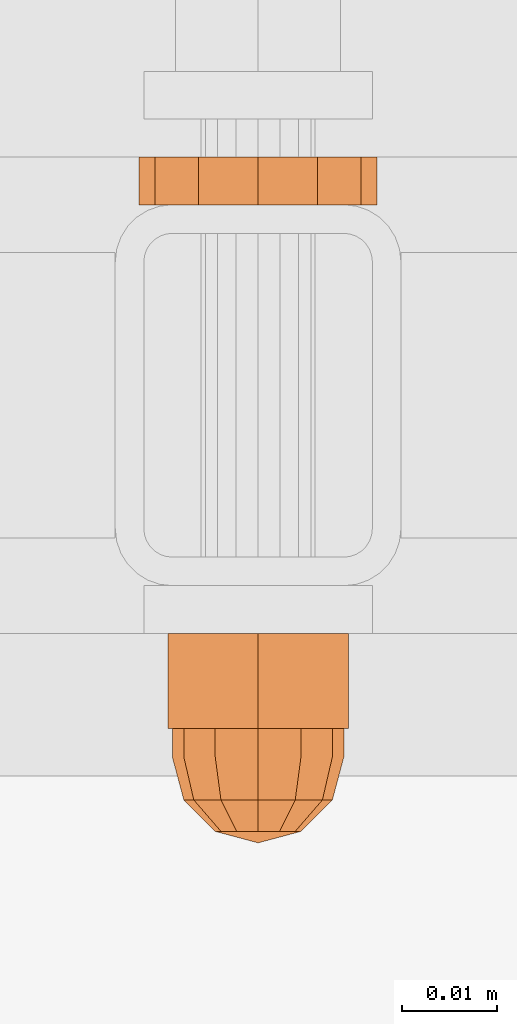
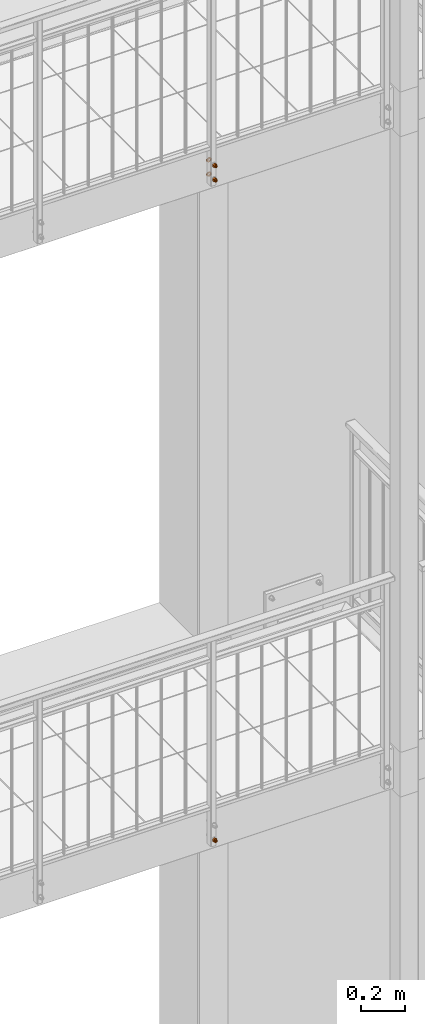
# One storey, part 121 of 162: 5 proxies.
"""IFC2X3 building model written with IfcOpenShell, lengths in millimetres."""

from ifc_helpers import new_model, entity, si_unit, converted_unit, origin_with_axes, place, context, project, spatial, faceted_brep, material, element, save


model = new_model("IFC2X3")

# Units and contexts
model_context = context("Model", 3, precision=1e-09, world=origin_with_axes())
ifc_project = project(units=[si_unit("LENGTHUNIT", "METRE", prefix="MILLI"), si_unit("AREAUNIT", "SQUARE_METRE"), si_unit("VOLUMEUNIT", "CUBIC_METRE"), converted_unit("PLANEANGLEUNIT", "DEGREE", entity("IfcPlaneAngleMeasure", 0.01745329), si_unit("PLANEANGLEUNIT", "RADIAN"), dimensions=[0, 0, 0, 0, 0, 0, 0])], contexts=[model_context])

# Site, building, storey
site_placement = place(None, origin_with_axes())
site = spatial("IfcSite", under=ifc_project, at=site_placement, Name="Hermannstra?e 1a, 60318 Frankfurt", CompositionType="ELEMENT")
building_placement = place(site_placement, origin_with_axes())
building = spatial("IfcBuilding", under=site, at=building_placement, Name="Struktur 1", CompositionType="ELEMENT")
storey_placement = place(building_placement, origin_with_axes())
storey = spatial("IfcBuildingStorey", under=building, at=storey_placement, Name="Default Storey", CompositionType="ELEMENT", Elevation=0.0)

# Proxies
ifc_material = material(Name="Kein")
proxy_1_placement = place(None, origin_with_axes())
element("IfcBuildingElementProxy", 1, at=proxy_1_placement, inside=storey, material=ifc_material, ObjectType="-", context=model_context, shape_type="Brep", body=[
    faceted_brep([(4437.30936482, 1490.609373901, 7640.0), (4437.30936482, 1480.609373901, 7640.0), (4438.113212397, 1480.609373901, 7637.0), (4438.113212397, 1490.609373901, 7637.0), (4440.30936482, 1480.609373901, 7634.803847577), (4440.30936482, 1490.609373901, 7634.803847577), (4438.113212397, 1490.609373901, 7643.0), (4438.113212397, 1480.609373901, 7643.0), (4433.829495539, 1490.609373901, 7645.473205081), (4443.30936482, 1490.609373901, 7650.946410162), (4452.7892341, 1490.609373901, 7645.473205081), (4452.7892341, 1490.609373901, 7634.526794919), (4443.30936482, 1490.609373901, 7629.053589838), (4433.829495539, 1490.609373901, 7634.526794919), (4440.30936482, 1490.609373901, 7645.196152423), (4443.30936482, 1490.609373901, 7634.0), (4446.30936482, 1490.609373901, 7634.803847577), (4448.505517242, 1490.609373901, 7637.0), (4449.30936482, 1490.609373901, 7640.0), (4448.505517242, 1490.609373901, 7643.0), (4446.30936482, 1490.609373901, 7645.196152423), (4443.30936482, 1490.609373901, 7646.0), (4443.30936482, 1480.609373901, 7650.946410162), (4433.829495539, 1480.609373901, 7645.473205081), (4433.829495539, 1480.609373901, 7634.526794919), (4443.30936482, 1480.609373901, 7629.053589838), (4452.7892341, 1480.609373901, 7634.526794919), (4452.7892341, 1480.609373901, 7645.473205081), (4440.30936482, 1480.609373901, 7645.196152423), (4443.30936482, 1480.609373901, 7646.0), (4446.30936482, 1480.609373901, 7645.196152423), (4448.505517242, 1480.609373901, 7643.0), (4449.30936482, 1480.609373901, 7640.0), (4448.505517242, 1480.609373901, 7637.0), (4446.30936482, 1480.609373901, 7634.803847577), (4443.30936482, 1480.609373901, 7634.0)], [[[0, 1, 2, 3]], [[3, 2, 4, 5]], [[1, 0, 6, 7]], [[8, 9, 10, 11, 12, 13], [14, 6, 0, 3, 5, 15, 16, 17, 18, 19, 20, 21]], [[22, 23, 24, 25, 26, 27], [1, 7, 28, 29, 30, 31, 32, 33, 34, 35, 4, 2]], [[7, 6, 14, 28]], [[24, 23, 8, 13]], [[5, 4, 35, 15]], [[13, 12, 25, 24]], [[28, 14, 21, 29]], [[23, 22, 9, 8]], [[15, 35, 34, 16]], [[12, 11, 26, 25]], [[29, 21, 20, 30]], [[22, 27, 10, 9]], [[16, 34, 33, 17]], [[27, 26, 11, 10]], [[30, 20, 19, 31]], [[17, 33, 32, 18]], [[31, 19, 18, 32]]]),
    faceted_brep([(4443.30936482, 1480.609373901, 7649.0), (4443.30936482, 1477.609373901, 7649.0), (4447.80936482, 1477.609373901, 7647.794228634), (4447.80936482, 1480.609373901, 7647.794228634), (4438.80936482, 1480.609373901, 7647.794228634), (4438.80936482, 1477.609373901, 7647.794228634), (4435.515136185, 1477.609373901, 7635.5), (4438.80936482, 1477.609373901, 7632.205771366), (4443.30936482, 1477.609373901, 7631.0), (4447.80936482, 1477.609373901, 7632.205771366), (4451.103593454, 1477.609373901, 7635.5), (4452.30936482, 1477.609373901, 7640.0), (4451.103593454, 1477.609373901, 7644.5), (4435.515136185, 1477.609373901, 7644.5), (4434.30936482, 1477.609373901, 7640.0), (4451.103593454, 1480.609373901, 7635.5), (4447.80936482, 1480.609373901, 7632.205771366), (4443.30936482, 1480.609373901, 7631.0), (4438.80936482, 1480.609373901, 7632.205771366), (4435.515136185, 1480.609373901, 7635.5), (4434.30936482, 1480.609373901, 7640.0), (4435.515136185, 1480.609373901, 7644.5), (4451.103593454, 1480.609373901, 7644.5), (4452.30936482, 1480.609373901, 7640.0)], [[[0, 1, 2, 3]], [[1, 0, 4, 5]], [[6, 7, 8, 9, 10, 11, 12, 2, 1, 5, 13, 14]], [[15, 16, 17, 18, 19, 20, 21, 4, 0, 3, 22, 23]], [[3, 2, 12, 22]], [[5, 4, 21, 13]], [[22, 12, 11, 23]], [[13, 21, 20, 14]], [[7, 18, 17, 8]], [[19, 6, 14, 20]], [[18, 7, 6, 19]], [[23, 11, 10, 15]], [[8, 17, 16, 9]], [[15, 10, 9, 16]]]),
    faceted_brep([(4435.515136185, 1477.609373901, 7644.5), (4436.55936482, 1473.109373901, 7643.897114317), (4439.412250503, 1473.109373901, 7646.75), (4438.80936482, 1477.609373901, 7647.794228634), (4451.103593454, 1477.609373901, 7635.5), (4447.80936482, 1477.609373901, 7632.205771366), (4443.30936482, 1477.609373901, 7631.0), (4438.80936482, 1477.609373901, 7632.205771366), (4435.515136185, 1477.609373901, 7635.5), (4434.30936482, 1477.609373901, 7640.0), (4443.30936482, 1477.609373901, 7649.0), (4447.80936482, 1477.609373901, 7647.794228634), (4451.103593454, 1477.609373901, 7644.5), (4452.30936482, 1477.609373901, 7640.0), (4443.30936482, 1473.109373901, 7647.794228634), (4435.515136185, 1473.109373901, 7640.0), (4438.80936482, 1469.815145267, 7640.0), (4439.412250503, 1469.815145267, 7642.25), (4447.206479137, 1473.109373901, 7646.75), (4441.05936482, 1469.815145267, 7643.897114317), (4436.55936482, 1473.109373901, 7636.102885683), (4439.412250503, 1469.815145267, 7637.75), (4443.30936482, 1469.815145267, 7644.5), (4443.30936482, 1468.609373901, 7640.0), (4439.412250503, 1473.109373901, 7633.25), (4441.05936482, 1469.815145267, 7636.102885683), (4443.30936482, 1473.109373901, 7632.205771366), (4450.05936482, 1473.109373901, 7643.897114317), (4445.55936482, 1469.815145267, 7643.897114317), (4443.30936482, 1469.815145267, 7635.5), (4447.206479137, 1473.109373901, 7633.25), (4445.55936482, 1469.815145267, 7636.102885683), (4451.103593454, 1473.109373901, 7640.0), (4447.206479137, 1469.815145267, 7642.25), (4450.05936482, 1473.109373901, 7636.102885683), (4447.206479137, 1469.815145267, 7637.75), (4447.80936482, 1469.815145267, 7640.0)], [[[0, 1, 2, 3]], [[4, 5, 6, 7, 8, 9, 0, 3, 10, 11, 12, 13]], [[3, 2, 14, 10]], [[15, 16, 17, 1]], [[1, 0, 9, 15]], [[10, 14, 18, 11]], [[1, 17, 19, 2]], [[16, 15, 20, 21]], [[2, 19, 22, 14]], [[23, 17, 16]], [[24, 25, 21, 20]], [[23, 16, 21]], [[24, 7, 6, 26]], [[20, 8, 7, 24]], [[15, 9, 8, 20]], [[11, 18, 27, 12]], [[14, 22, 28, 18]], [[23, 19, 17]], [[26, 29, 25, 24]], [[23, 21, 25]], [[23, 22, 19]], [[26, 6, 5, 30]], [[29, 26, 30, 31]], [[23, 25, 29]], [[12, 27, 32, 13]], [[18, 28, 33, 27]], [[23, 28, 22]], [[23, 29, 31]], [[23, 33, 28]], [[30, 5, 4, 34]], [[31, 30, 34, 35]], [[23, 31, 35]], [[13, 32, 34, 4]], [[27, 33, 36, 32]], [[23, 36, 33]], [[23, 35, 36]], [[35, 34, 32, 36]]]),
])
proxy_2_placement = place(None, origin_with_axes())
element("IfcBuildingElementProxy", 2, at=proxy_2_placement, inside=storey, material=ifc_material, ObjectType="-", context=model_context, shape_type="Brep", body=[
    faceted_brep([(4432.484047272, 1535.609373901, 11333.749), (4437.05936482, 1535.609373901, 11329.173682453), (4443.30936482, 1535.609373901, 11327.499), (4449.55936482, 1535.609373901, 11329.173682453), (4454.134682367, 1535.609373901, 11333.749), (4455.80936482, 1535.609373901, 11339.999), (4454.134682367, 1535.609373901, 11346.249), (4449.55936482, 1535.609373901, 11350.824317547), (4443.30936482, 1535.609373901, 11352.499), (4437.05936482, 1535.609373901, 11350.824317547), (4432.484047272, 1535.609373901, 11346.249), (4430.80936482, 1535.609373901, 11339.999), (4443.30936482, 1535.609373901, 11333.999), (4440.30936482, 1535.609373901, 11334.802847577), (4438.113212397, 1535.609373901, 11336.999), (4437.30936482, 1535.609373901, 11339.999), (4438.113212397, 1535.609373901, 11342.999), (4440.30936482, 1535.609373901, 11345.195152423), (4443.30936482, 1535.609373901, 11345.999), (4446.30936482, 1535.609373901, 11345.195152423), (4448.505517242, 1535.609373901, 11342.999), (4449.30936482, 1535.609373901, 11339.999), (4448.505517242, 1535.609373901, 11336.999), (4446.30936482, 1535.609373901, 11334.802847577), (4432.484047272, 1540.609373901, 11333.749), (4437.05936482, 1540.609373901, 11329.173682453), (4430.80936482, 1540.609373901, 11339.999), (4432.484047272, 1540.609373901, 11346.249), (4437.05936482, 1540.609373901, 11350.824317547), (4443.30936482, 1540.609373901, 11352.499), (4449.55936482, 1540.609373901, 11350.824317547), (4454.134682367, 1540.609373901, 11346.249), (4455.80936482, 1540.609373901, 11339.999), (4454.134682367, 1540.609373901, 11333.749), (4449.55936482, 1540.609373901, 11329.173682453), (4443.30936482, 1540.609373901, 11327.499), (4438.113212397, 1540.609373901, 11342.999), (4437.30936482, 1540.609373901, 11339.999), (4438.113212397, 1540.609373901, 11336.999), (4440.30936482, 1540.609373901, 11334.802847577), (4443.30936482, 1540.609373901, 11333.999), (4446.30936482, 1540.609373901, 11334.802847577), (4448.505517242, 1540.609373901, 11336.999), (4449.30936482, 1540.609373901, 11339.999), (4448.505517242, 1540.609373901, 11342.999), (4446.30936482, 1540.609373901, 11345.195152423), (4443.30936482, 1540.609373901, 11345.999), (4440.30936482, 1540.609373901, 11345.195152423)], [[[0, 1, 2, 3, 4, 5, 6, 7, 8, 9, 10, 11], [12, 13, 14, 15, 16, 17, 18, 19, 20, 21, 22, 23]], [[0, 24, 25, 1]], [[24, 26, 27, 28, 29, 30, 31, 32, 33, 34, 35, 25], [36, 37, 38, 39, 40, 41, 42, 43, 44, 45, 46, 47]], [[38, 14, 13, 39]], [[24, 0, 11, 26]], [[14, 38, 37, 15]], [[39, 13, 12, 40]], [[1, 25, 35, 2]], [[26, 11, 10, 27]], [[15, 37, 36, 16]], [[40, 12, 23, 41]], [[2, 35, 34, 3]], [[27, 10, 9, 28]], [[16, 36, 47, 17]], [[22, 42, 41, 23]], [[3, 34, 33, 4]], [[42, 22, 21, 43]], [[28, 9, 8, 29]], [[17, 47, 46, 18]], [[20, 44, 43, 21]], [[4, 33, 32, 5]], [[45, 19, 18, 46]], [[44, 20, 19, 45]], [[29, 8, 7, 30]], [[5, 32, 31, 6]], [[30, 7, 6, 31]]]),
])
proxy_3_placement = place(None, origin_with_axes())
element("IfcBuildingElementProxy", 3, at=proxy_3_placement, inside=storey, material=ifc_material, ObjectType="-", context=model_context, shape_type="Brep", body=[
    faceted_brep([(4432.484047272, 1535.609373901, 11413.749), (4437.05936482, 1535.609373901, 11409.173682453), (4443.30936482, 1535.609373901, 11407.499), (4449.55936482, 1535.609373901, 11409.173682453), (4454.134682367, 1535.609373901, 11413.749), (4455.80936482, 1535.609373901, 11419.999), (4454.134682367, 1535.609373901, 11426.249), (4449.55936482, 1535.609373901, 11430.824317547), (4443.30936482, 1535.609373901, 11432.499), (4437.05936482, 1535.609373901, 11430.824317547), (4432.484047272, 1535.609373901, 11426.249), (4430.80936482, 1535.609373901, 11419.999), (4443.30936482, 1535.609373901, 11413.999), (4440.30936482, 1535.609373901, 11414.802847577), (4438.113212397, 1535.609373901, 11416.999), (4437.30936482, 1535.609373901, 11419.999), (4438.113212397, 1535.609373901, 11422.999), (4440.30936482, 1535.609373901, 11425.195152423), (4443.30936482, 1535.609373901, 11425.999), (4446.30936482, 1535.609373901, 11425.195152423), (4448.505517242, 1535.609373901, 11422.999), (4449.30936482, 1535.609373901, 11419.999), (4448.505517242, 1535.609373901, 11416.999), (4446.30936482, 1535.609373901, 11414.802847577), (4432.484047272, 1540.609373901, 11413.749), (4437.05936482, 1540.609373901, 11409.173682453), (4430.80936482, 1540.609373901, 11419.999), (4432.484047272, 1540.609373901, 11426.249), (4437.05936482, 1540.609373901, 11430.824317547), (4443.30936482, 1540.609373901, 11432.499), (4449.55936482, 1540.609373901, 11430.824317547), (4454.134682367, 1540.609373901, 11426.249), (4455.80936482, 1540.609373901, 11419.999), (4454.134682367, 1540.609373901, 11413.749), (4449.55936482, 1540.609373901, 11409.173682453), (4443.30936482, 1540.609373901, 11407.499), (4438.113212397, 1540.609373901, 11422.999), (4437.30936482, 1540.609373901, 11419.999), (4438.113212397, 1540.609373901, 11416.999), (4440.30936482, 1540.609373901, 11414.802847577), (4443.30936482, 1540.609373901, 11413.999), (4446.30936482, 1540.609373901, 11414.802847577), (4448.505517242, 1540.609373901, 11416.999), (4449.30936482, 1540.609373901, 11419.999), (4448.505517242, 1540.609373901, 11422.999), (4446.30936482, 1540.609373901, 11425.195152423), (4443.30936482, 1540.609373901, 11425.999), (4440.30936482, 1540.609373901, 11425.195152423)], [[[0, 1, 2, 3, 4, 5, 6, 7, 8, 9, 10, 11], [12, 13, 14, 15, 16, 17, 18, 19, 20, 21, 22, 23]], [[0, 24, 25, 1]], [[24, 26, 27, 28, 29, 30, 31, 32, 33, 34, 35, 25], [36, 37, 38, 39, 40, 41, 42, 43, 44, 45, 46, 47]], [[38, 14, 13, 39]], [[24, 0, 11, 26]], [[14, 38, 37, 15]], [[39, 13, 12, 40]], [[1, 25, 35, 2]], [[26, 11, 10, 27]], [[15, 37, 36, 16]], [[40, 12, 23, 41]], [[2, 35, 34, 3]], [[27, 10, 9, 28]], [[16, 36, 47, 17]], [[22, 42, 41, 23]], [[3, 34, 33, 4]], [[42, 22, 21, 43]], [[28, 9, 8, 29]], [[17, 47, 46, 18]], [[20, 44, 43, 21]], [[4, 33, 32, 5]], [[45, 19, 18, 46]], [[44, 20, 19, 45]], [[29, 8, 7, 30]], [[5, 32, 31, 6]], [[30, 7, 6, 31]]]),
])
proxy_4_placement = place(None, origin_with_axes())
element("IfcBuildingElementProxy", 4, at=proxy_4_placement, inside=storey, material=ifc_material, ObjectType="-", context=model_context, shape_type="Brep", body=[
    faceted_brep([(4437.30936482, 1490.609373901, 11419.999), (4437.30936482, 1480.609373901, 11419.999), (4438.113212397, 1480.609373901, 11416.999), (4438.113212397, 1490.609373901, 11416.999), (4440.30936482, 1480.609373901, 11414.802847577), (4440.30936482, 1490.609373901, 11414.802847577), (4438.113212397, 1490.609373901, 11422.999), (4438.113212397, 1480.609373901, 11422.999), (4433.829495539, 1490.609373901, 11425.472205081), (4443.30936482, 1490.609373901, 11430.945410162), (4452.7892341, 1490.609373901, 11425.472205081), (4452.7892341, 1490.609373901, 11414.525794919), (4443.30936482, 1490.609373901, 11409.052589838), (4433.829495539, 1490.609373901, 11414.525794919), (4440.30936482, 1490.609373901, 11425.195152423), (4443.30936482, 1490.609373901, 11413.999), (4446.30936482, 1490.609373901, 11414.802847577), (4448.505517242, 1490.609373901, 11416.999), (4449.30936482, 1490.609373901, 11419.999), (4448.505517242, 1490.609373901, 11422.999), (4446.30936482, 1490.609373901, 11425.195152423), (4443.30936482, 1490.609373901, 11425.999), (4443.30936482, 1480.609373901, 11430.945410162), (4433.829495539, 1480.609373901, 11425.472205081), (4433.829495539, 1480.609373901, 11414.525794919), (4443.30936482, 1480.609373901, 11409.052589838), (4452.7892341, 1480.609373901, 11414.525794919), (4452.7892341, 1480.609373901, 11425.472205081), (4440.30936482, 1480.609373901, 11425.195152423), (4443.30936482, 1480.609373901, 11425.999), (4446.30936482, 1480.609373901, 11425.195152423), (4448.505517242, 1480.609373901, 11422.999), (4449.30936482, 1480.609373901, 11419.999), (4448.505517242, 1480.609373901, 11416.999), (4446.30936482, 1480.609373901, 11414.802847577), (4443.30936482, 1480.609373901, 11413.999)], [[[0, 1, 2, 3]], [[3, 2, 4, 5]], [[1, 0, 6, 7]], [[8, 9, 10, 11, 12, 13], [14, 6, 0, 3, 5, 15, 16, 17, 18, 19, 20, 21]], [[22, 23, 24, 25, 26, 27], [1, 7, 28, 29, 30, 31, 32, 33, 34, 35, 4, 2]], [[7, 6, 14, 28]], [[24, 23, 8, 13]], [[5, 4, 35, 15]], [[13, 12, 25, 24]], [[28, 14, 21, 29]], [[23, 22, 9, 8]], [[15, 35, 34, 16]], [[12, 11, 26, 25]], [[29, 21, 20, 30]], [[22, 27, 10, 9]], [[16, 34, 33, 17]], [[27, 26, 11, 10]], [[30, 20, 19, 31]], [[17, 33, 32, 18]], [[31, 19, 18, 32]]]),
    faceted_brep([(4443.30936482, 1480.609373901, 11428.999), (4443.30936482, 1477.609373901, 11428.999), (4447.80936482, 1477.609373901, 11427.793228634), (4447.80936482, 1480.609373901, 11427.793228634), (4438.80936482, 1480.609373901, 11427.793228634), (4438.80936482, 1477.609373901, 11427.793228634), (4435.515136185, 1477.609373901, 11415.499), (4438.80936482, 1477.609373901, 11412.204771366), (4443.30936482, 1477.609373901, 11410.999), (4447.80936482, 1477.609373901, 11412.204771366), (4451.103593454, 1477.609373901, 11415.499), (4452.30936482, 1477.609373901, 11419.999), (4451.103593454, 1477.609373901, 11424.499), (4435.515136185, 1477.609373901, 11424.499), (4434.30936482, 1477.609373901, 11419.999), (4451.103593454, 1480.609373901, 11415.499), (4447.80936482, 1480.609373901, 11412.204771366), (4443.30936482, 1480.609373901, 11410.999), (4438.80936482, 1480.609373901, 11412.204771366), (4435.515136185, 1480.609373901, 11415.499), (4434.30936482, 1480.609373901, 11419.999), (4435.515136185, 1480.609373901, 11424.499), (4451.103593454, 1480.609373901, 11424.499), (4452.30936482, 1480.609373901, 11419.999)], [[[0, 1, 2, 3]], [[1, 0, 4, 5]], [[6, 7, 8, 9, 10, 11, 12, 2, 1, 5, 13, 14]], [[15, 16, 17, 18, 19, 20, 21, 4, 0, 3, 22, 23]], [[3, 2, 12, 22]], [[5, 4, 21, 13]], [[22, 12, 11, 23]], [[13, 21, 20, 14]], [[7, 18, 17, 8]], [[19, 6, 14, 20]], [[18, 7, 6, 19]], [[23, 11, 10, 15]], [[8, 17, 16, 9]], [[15, 10, 9, 16]]]),
    faceted_brep([(4435.515136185, 1477.609373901, 11424.499), (4436.55936482, 1473.109373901, 11423.896114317), (4439.412250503, 1473.109373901, 11426.749), (4438.80936482, 1477.609373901, 11427.793228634), (4451.103593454, 1477.609373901, 11415.499), (4447.80936482, 1477.609373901, 11412.204771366), (4443.30936482, 1477.609373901, 11410.999), (4438.80936482, 1477.609373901, 11412.204771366), (4435.515136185, 1477.609373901, 11415.499), (4434.30936482, 1477.609373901, 11419.999), (4443.30936482, 1477.609373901, 11428.999), (4447.80936482, 1477.609373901, 11427.793228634), (4451.103593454, 1477.609373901, 11424.499), (4452.30936482, 1477.609373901, 11419.999), (4443.30936482, 1473.109373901, 11427.793228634), (4435.515136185, 1473.109373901, 11419.999), (4438.80936482, 1469.815145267, 11419.999), (4439.412250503, 1469.815145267, 11422.249), (4447.206479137, 1473.109373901, 11426.749), (4441.05936482, 1469.815145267, 11423.896114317), (4436.55936482, 1473.109373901, 11416.101885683), (4439.412250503, 1469.815145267, 11417.749), (4443.30936482, 1469.815145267, 11424.499), (4443.30936482, 1468.609373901, 11419.999), (4439.412250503, 1473.109373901, 11413.249), (4441.05936482, 1469.815145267, 11416.101885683), (4443.30936482, 1473.109373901, 11412.204771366), (4450.05936482, 1473.109373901, 11423.896114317), (4445.55936482, 1469.815145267, 11423.896114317), (4443.30936482, 1469.815145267, 11415.499), (4447.206479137, 1473.109373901, 11413.249), (4445.55936482, 1469.815145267, 11416.101885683), (4451.103593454, 1473.109373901, 11419.999), (4447.206479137, 1469.815145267, 11422.249), (4450.05936482, 1473.109373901, 11416.101885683), (4447.206479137, 1469.815145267, 11417.749), (4447.80936482, 1469.815145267, 11419.999)], [[[0, 1, 2, 3]], [[4, 5, 6, 7, 8, 9, 0, 3, 10, 11, 12, 13]], [[3, 2, 14, 10]], [[15, 16, 17, 1]], [[1, 0, 9, 15]], [[10, 14, 18, 11]], [[1, 17, 19, 2]], [[16, 15, 20, 21]], [[2, 19, 22, 14]], [[23, 17, 16]], [[24, 25, 21, 20]], [[23, 16, 21]], [[24, 7, 6, 26]], [[20, 8, 7, 24]], [[15, 9, 8, 20]], [[11, 18, 27, 12]], [[14, 22, 28, 18]], [[23, 19, 17]], [[26, 29, 25, 24]], [[23, 21, 25]], [[23, 22, 19]], [[26, 6, 5, 30]], [[29, 26, 30, 31]], [[23, 25, 29]], [[12, 27, 32, 13]], [[18, 28, 33, 27]], [[23, 28, 22]], [[23, 29, 31]], [[23, 33, 28]], [[30, 5, 4, 34]], [[31, 30, 34, 35]], [[23, 31, 35]], [[13, 32, 34, 4]], [[27, 33, 36, 32]], [[23, 36, 33]], [[23, 35, 36]], [[35, 34, 32, 36]]]),
])
proxy_5_placement = place(None, origin_with_axes())
element("IfcBuildingElementProxy", 5, at=proxy_5_placement, inside=storey, material=ifc_material, ObjectType="-", context=model_context, shape_type="Brep", body=[
    faceted_brep([(4437.30936482, 1490.609373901, 11339.999), (4437.30936482, 1480.609373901, 11339.999), (4438.113212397, 1480.609373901, 11336.999), (4438.113212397, 1490.609373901, 11336.999), (4440.30936482, 1480.609373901, 11334.802847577), (4440.30936482, 1490.609373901, 11334.802847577), (4438.113212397, 1490.609373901, 11342.999), (4438.113212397, 1480.609373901, 11342.999), (4433.829495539, 1490.609373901, 11345.472205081), (4443.30936482, 1490.609373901, 11350.945410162), (4452.7892341, 1490.609373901, 11345.472205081), (4452.7892341, 1490.609373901, 11334.525794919), (4443.30936482, 1490.609373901, 11329.052589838), (4433.829495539, 1490.609373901, 11334.525794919), (4440.30936482, 1490.609373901, 11345.195152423), (4443.30936482, 1490.609373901, 11333.999), (4446.30936482, 1490.609373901, 11334.802847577), (4448.505517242, 1490.609373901, 11336.999), (4449.30936482, 1490.609373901, 11339.999), (4448.505517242, 1490.609373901, 11342.999), (4446.30936482, 1490.609373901, 11345.195152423), (4443.30936482, 1490.609373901, 11345.999), (4443.30936482, 1480.609373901, 11350.945410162), (4433.829495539, 1480.609373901, 11345.472205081), (4433.829495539, 1480.609373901, 11334.525794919), (4443.30936482, 1480.609373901, 11329.052589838), (4452.7892341, 1480.609373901, 11334.525794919), (4452.7892341, 1480.609373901, 11345.472205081), (4440.30936482, 1480.609373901, 11345.195152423), (4443.30936482, 1480.609373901, 11345.999), (4446.30936482, 1480.609373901, 11345.195152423), (4448.505517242, 1480.609373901, 11342.999), (4449.30936482, 1480.609373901, 11339.999), (4448.505517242, 1480.609373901, 11336.999), (4446.30936482, 1480.609373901, 11334.802847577), (4443.30936482, 1480.609373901, 11333.999)], [[[0, 1, 2, 3]], [[3, 2, 4, 5]], [[1, 0, 6, 7]], [[8, 9, 10, 11, 12, 13], [14, 6, 0, 3, 5, 15, 16, 17, 18, 19, 20, 21]], [[22, 23, 24, 25, 26, 27], [1, 7, 28, 29, 30, 31, 32, 33, 34, 35, 4, 2]], [[7, 6, 14, 28]], [[24, 23, 8, 13]], [[5, 4, 35, 15]], [[13, 12, 25, 24]], [[28, 14, 21, 29]], [[23, 22, 9, 8]], [[15, 35, 34, 16]], [[12, 11, 26, 25]], [[29, 21, 20, 30]], [[22, 27, 10, 9]], [[16, 34, 33, 17]], [[27, 26, 11, 10]], [[30, 20, 19, 31]], [[17, 33, 32, 18]], [[31, 19, 18, 32]]]),
    faceted_brep([(4443.30936482, 1480.609373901, 11348.999), (4443.30936482, 1477.609373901, 11348.999), (4447.80936482, 1477.609373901, 11347.793228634), (4447.80936482, 1480.609373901, 11347.793228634), (4438.80936482, 1480.609373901, 11347.793228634), (4438.80936482, 1477.609373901, 11347.793228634), (4435.515136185, 1477.609373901, 11335.499), (4438.80936482, 1477.609373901, 11332.204771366), (4443.30936482, 1477.609373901, 11330.999), (4447.80936482, 1477.609373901, 11332.204771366), (4451.103593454, 1477.609373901, 11335.499), (4452.30936482, 1477.609373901, 11339.999), (4451.103593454, 1477.609373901, 11344.499), (4435.515136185, 1477.609373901, 11344.499), (4434.30936482, 1477.609373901, 11339.999), (4451.103593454, 1480.609373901, 11335.499), (4447.80936482, 1480.609373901, 11332.204771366), (4443.30936482, 1480.609373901, 11330.999), (4438.80936482, 1480.609373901, 11332.204771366), (4435.515136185, 1480.609373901, 11335.499), (4434.30936482, 1480.609373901, 11339.999), (4435.515136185, 1480.609373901, 11344.499), (4451.103593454, 1480.609373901, 11344.499), (4452.30936482, 1480.609373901, 11339.999)], [[[0, 1, 2, 3]], [[1, 0, 4, 5]], [[6, 7, 8, 9, 10, 11, 12, 2, 1, 5, 13, 14]], [[15, 16, 17, 18, 19, 20, 21, 4, 0, 3, 22, 23]], [[3, 2, 12, 22]], [[5, 4, 21, 13]], [[22, 12, 11, 23]], [[13, 21, 20, 14]], [[7, 18, 17, 8]], [[19, 6, 14, 20]], [[18, 7, 6, 19]], [[23, 11, 10, 15]], [[8, 17, 16, 9]], [[15, 10, 9, 16]]]),
    faceted_brep([(4435.515136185, 1477.609373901, 11344.499), (4436.55936482, 1473.109373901, 11343.896114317), (4439.412250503, 1473.109373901, 11346.749), (4438.80936482, 1477.609373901, 11347.793228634), (4451.103593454, 1477.609373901, 11335.499), (4447.80936482, 1477.609373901, 11332.204771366), (4443.30936482, 1477.609373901, 11330.999), (4438.80936482, 1477.609373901, 11332.204771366), (4435.515136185, 1477.609373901, 11335.499), (4434.30936482, 1477.609373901, 11339.999), (4443.30936482, 1477.609373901, 11348.999), (4447.80936482, 1477.609373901, 11347.793228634), (4451.103593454, 1477.609373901, 11344.499), (4452.30936482, 1477.609373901, 11339.999), (4443.30936482, 1473.109373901, 11347.793228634), (4435.515136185, 1473.109373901, 11339.999), (4438.80936482, 1469.815145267, 11339.999), (4439.412250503, 1469.815145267, 11342.249), (4447.206479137, 1473.109373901, 11346.749), (4441.05936482, 1469.815145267, 11343.896114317), (4436.55936482, 1473.109373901, 11336.101885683), (4439.412250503, 1469.815145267, 11337.749), (4443.30936482, 1469.815145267, 11344.499), (4443.30936482, 1468.609373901, 11339.999), (4439.412250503, 1473.109373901, 11333.249), (4441.05936482, 1469.815145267, 11336.101885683), (4443.30936482, 1473.109373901, 11332.204771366), (4450.05936482, 1473.109373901, 11343.896114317), (4445.55936482, 1469.815145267, 11343.896114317), (4443.30936482, 1469.815145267, 11335.499), (4447.206479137, 1473.109373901, 11333.249), (4445.55936482, 1469.815145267, 11336.101885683), (4451.103593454, 1473.109373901, 11339.999), (4447.206479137, 1469.815145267, 11342.249), (4450.05936482, 1473.109373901, 11336.101885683), (4447.206479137, 1469.815145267, 11337.749), (4447.80936482, 1469.815145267, 11339.999)], [[[0, 1, 2, 3]], [[4, 5, 6, 7, 8, 9, 0, 3, 10, 11, 12, 13]], [[3, 2, 14, 10]], [[15, 16, 17, 1]], [[1, 0, 9, 15]], [[10, 14, 18, 11]], [[1, 17, 19, 2]], [[16, 15, 20, 21]], [[2, 19, 22, 14]], [[23, 17, 16]], [[24, 25, 21, 20]], [[23, 16, 21]], [[24, 7, 6, 26]], [[20, 8, 7, 24]], [[15, 9, 8, 20]], [[11, 18, 27, 12]], [[14, 22, 28, 18]], [[23, 19, 17]], [[26, 29, 25, 24]], [[23, 21, 25]], [[23, 22, 19]], [[26, 6, 5, 30]], [[29, 26, 30, 31]], [[23, 25, 29]], [[12, 27, 32, 13]], [[18, 28, 33, 27]], [[23, 28, 22]], [[23, 29, 31]], [[23, 33, 28]], [[30, 5, 4, 34]], [[31, 30, 34, 35]], [[23, 31, 35]], [[13, 32, 34, 4]], [[27, 33, 36, 32]], [[23, 36, 33]], [[23, 35, 36]], [[35, 34, 32, 36]]]),
])

save(model, "model.ifc")
